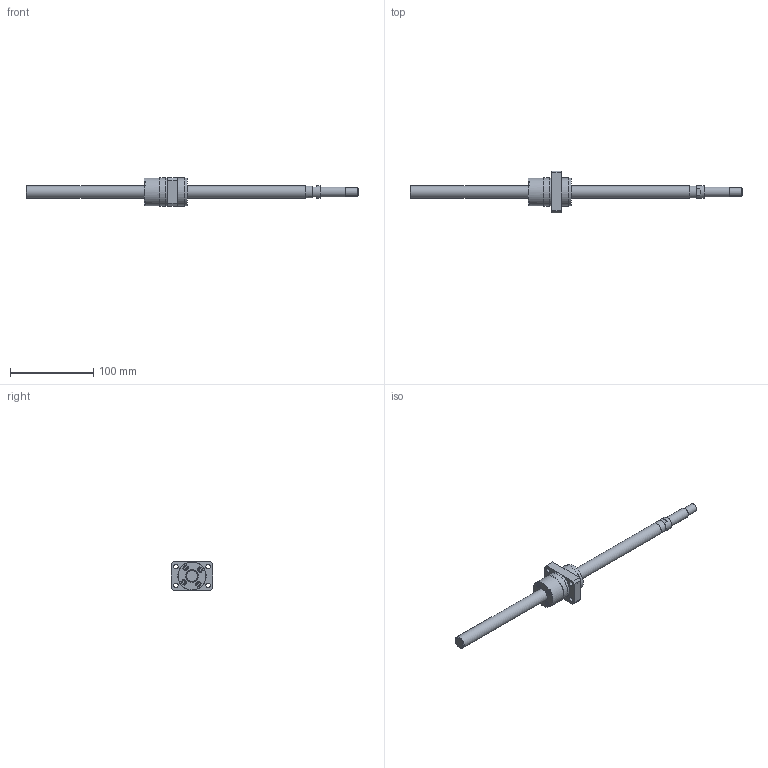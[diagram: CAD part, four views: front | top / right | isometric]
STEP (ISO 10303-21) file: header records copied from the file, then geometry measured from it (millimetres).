
FILE_DESCRIPTION(/* description */ ('STEP AP214'),/* implementation_level */ '2;1');
FILE_NAME(/* name */ 'SG1520-337R400C5A0X(142.5)',/* time_stamp */ '2026-07-24T21:03:23+02:00',/* author */ ('License CC BY-ND 4.0'),/* organization */ ('CADENAS'),/* preprocessor_version */ 'ST-DEVELOPER v20',/* originating_system */ 'PARTsolutions',/* authorisation */ ' ');
FILE_SCHEMA (('AUTOMOTIVE_DESIGN {1 0 10303 214 3 1 1}'));
Length unit declared in the file: millimetre
Products named in the file (3): SG1520-337R400C5A0X(142.5); SG1520-337R400C5A_shaft; SG1520 C5_nut
Assembly tree (2 placements, depth 2):
  SG1520-337R400C5A0X(142.5)
    SG1520-337R400C5A_shaft
    SG1520 C5_nut
Bounding box: 400 x 50 x 34 mm (x, y, z)
Volume: 110543.1 mm3; surface area: 31495.1 mm2
Topology: 2 solids, 2 shells, 114 faces, 257 edges, 166 vertices
Faces by surface type: plane 73, cylinder 33, cone 7, torus 1
Full cylindrical faces by diameter (mm): 2 x1, 4.917 x1, 5.5 x8, 9.5 x4, 10 x1, 12 x1, 14.387 x1, 15 x3, 33.5 x3, 34 x2
Entity records: 3094 total; most frequent: DIRECTION 540, CARTESIAN_POINT 511, ORIENTED_EDGE 442, EDGE_CURVE 221, AXIS2_PLACEMENT_3D 203, EDGE_LOOP 178, FACE_BOUND 178, VERTEX_POINT 163
